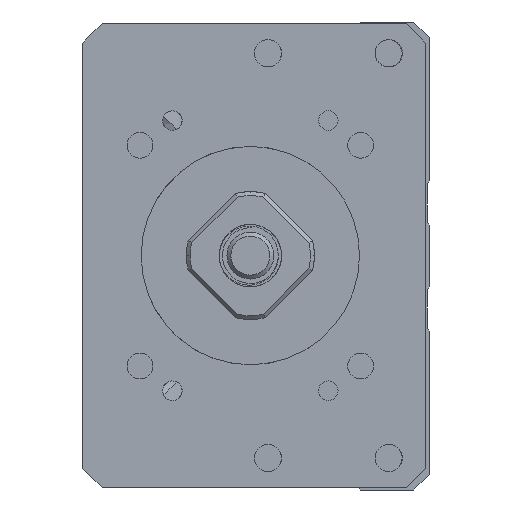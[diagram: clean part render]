
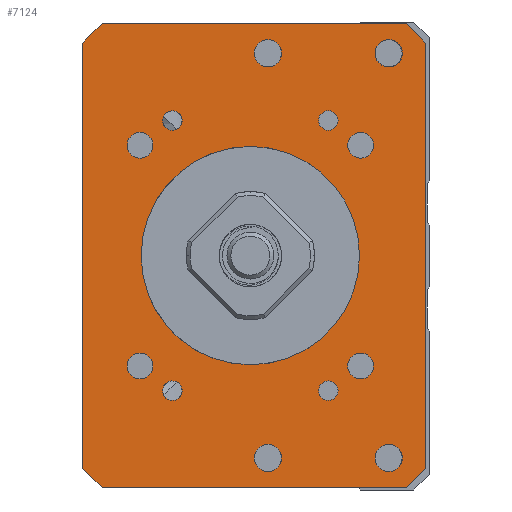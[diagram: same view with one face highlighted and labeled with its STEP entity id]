
A CAD part, left-side view. The second image highlights one B-rep face of the part: STEP entity #7124.
In plain terms, the highlighted planar face has unit normal (-1, 0, 0).
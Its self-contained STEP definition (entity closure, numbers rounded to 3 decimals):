
#4270=CIRCLE('',#14048,14.);
#4279=CIRCLE('',#14059,1.65);
#4280=CIRCLE('',#14060,1.65);
#4281=CIRCLE('',#14061,1.65);
#4282=CIRCLE('',#14062,1.65);
#4283=CIRCLE('',#14063,1.25);
#4284=CIRCLE('',#14064,1.75);
#4285=CIRCLE('',#14065,1.25);
#4286=CIRCLE('',#14066,1.75);
#4287=CIRCLE('',#14067,1.25);
#4288=CIRCLE('',#14068,1.75);
#4289=CIRCLE('',#14069,1.75);
#4290=CIRCLE('',#14070,1.25);
#4686=PLANE('',#14071);
#5545=LINE('',#18334,#6352);
#5547=LINE('',#18358,#6354);
#5548=LINE('',#18360,#6355);
#5549=LINE('',#18362,#6356);
#5550=LINE('',#18364,#6357);
#5551=LINE('',#18366,#6358);
#5552=LINE('',#18368,#6359);
#5553=LINE('',#18370,#6360);
#6352=VECTOR('',#15415,1.);
#6354=VECTOR('',#15439,1.);
#6355=VECTOR('',#15440,1.);
#6356=VECTOR('',#15441,1.);
#6357=VECTOR('',#15442,1.);
#6358=VECTOR('',#15443,1.);
#6359=VECTOR('',#15444,1.);
#6360=VECTOR('',#15445,1.);
#7124=ADVANCED_FACE('',(#7836,#7837,#7838,#7839,#7840,#7841,#7842,#7843,
#7844,#7845,#7846,#7847,#7848,#7849),#4686,.F.);
#7836=FACE_BOUND('',#8298,.T.);
#7837=FACE_BOUND('',#8299,.T.);
#7838=FACE_BOUND('',#8300,.T.);
#7839=FACE_BOUND('',#8301,.T.);
#7840=FACE_BOUND('',#8302,.T.);
#7841=FACE_BOUND('',#8303,.T.);
#7842=FACE_BOUND('',#8304,.T.);
#7843=FACE_BOUND('',#8305,.T.);
#7844=FACE_BOUND('',#8306,.T.);
#7845=FACE_BOUND('',#8307,.T.);
#7846=FACE_BOUND('',#8308,.T.);
#7847=FACE_BOUND('',#8309,.T.);
#7848=FACE_BOUND('',#8310,.T.);
#7849=FACE_BOUND('',#8311,.T.);
#8298=EDGE_LOOP('',(#9518));
#8299=EDGE_LOOP('',(#9519));
#8300=EDGE_LOOP('',(#9520));
#8301=EDGE_LOOP('',(#9521));
#8302=EDGE_LOOP('',(#9522));
#8303=EDGE_LOOP('',(#9523));
#8304=EDGE_LOOP('',(#9524));
#8305=EDGE_LOOP('',(#9525));
#8306=EDGE_LOOP('',(#9526));
#8307=EDGE_LOOP('',(#9527,#9528,#9529,#9530,#9531,#9532,#9533,#9534));
#8308=EDGE_LOOP('',(#9535));
#8309=EDGE_LOOP('',(#9536));
#8310=EDGE_LOOP('',(#9537));
#8311=EDGE_LOOP('',(#9538));
#9518=ORIENTED_EDGE('',*,*,#12746,.F.);
#9519=ORIENTED_EDGE('',*,*,#12747,.F.);
#9520=ORIENTED_EDGE('',*,*,#12748,.F.);
#9521=ORIENTED_EDGE('',*,*,#12749,.F.);
#9522=ORIENTED_EDGE('',*,*,#12750,.F.);
#9523=ORIENTED_EDGE('',*,*,#12751,.T.);
#9524=ORIENTED_EDGE('',*,*,#12752,.F.);
#9525=ORIENTED_EDGE('',*,*,#12753,.F.);
#9526=ORIENTED_EDGE('',*,*,#12754,.F.);
#9527=ORIENTED_EDGE('',*,*,#12743,.T.);
#9528=ORIENTED_EDGE('',*,*,#12755,.T.);
#9529=ORIENTED_EDGE('',*,*,#12756,.F.);
#9530=ORIENTED_EDGE('',*,*,#12757,.T.);
#9531=ORIENTED_EDGE('',*,*,#12758,.F.);
#9532=ORIENTED_EDGE('',*,*,#12759,.T.);
#9533=ORIENTED_EDGE('',*,*,#12760,.T.);
#9534=ORIENTED_EDGE('',*,*,#12761,.T.);
#9535=ORIENTED_EDGE('',*,*,#12762,.F.);
#9536=ORIENTED_EDGE('',*,*,#12763,.F.);
#9537=ORIENTED_EDGE('',*,*,#12764,.F.);
#9538=ORIENTED_EDGE('',*,*,#12723,.F.);
#11723=VERTEX_POINT('',#18273);
#11743=VERTEX_POINT('',#18333);
#11744=VERTEX_POINT('',#18335);
#11746=VERTEX_POINT('',#18341);
#11747=VERTEX_POINT('',#18343);
#11748=VERTEX_POINT('',#18345);
#11749=VERTEX_POINT('',#18347);
#11750=VERTEX_POINT('',#18349);
#11751=VERTEX_POINT('',#18351);
#11752=VERTEX_POINT('',#18353);
#11753=VERTEX_POINT('',#18355);
#11754=VERTEX_POINT('',#18357);
#11755=VERTEX_POINT('',#18359);
#11756=VERTEX_POINT('',#18361);
#11757=VERTEX_POINT('',#18363);
#11758=VERTEX_POINT('',#18365);
#11759=VERTEX_POINT('',#18367);
#11760=VERTEX_POINT('',#18369);
#11761=VERTEX_POINT('',#18372);
#11762=VERTEX_POINT('',#18374);
#11763=VERTEX_POINT('',#18376);
#12723=EDGE_CURVE('',#11723,#11723,#4270,.T.);
#12743=EDGE_CURVE('',#11744,#11743,#5545,.T.);
#12746=EDGE_CURVE('',#11746,#11746,#4279,.T.);
#12747=EDGE_CURVE('',#11747,#11747,#4280,.T.);
#12748=EDGE_CURVE('',#11748,#11748,#4281,.T.);
#12749=EDGE_CURVE('',#11749,#11749,#4282,.T.);
#12750=EDGE_CURVE('',#11750,#11750,#4283,.T.);
#12751=EDGE_CURVE('',#11751,#11751,#4284,.T.);
#12752=EDGE_CURVE('',#11752,#11752,#4285,.T.);
#12753=EDGE_CURVE('',#11753,#11753,#4286,.T.);
#12754=EDGE_CURVE('',#11754,#11754,#4287,.T.);
#12755=EDGE_CURVE('',#11743,#11755,#5547,.T.);
#12756=EDGE_CURVE('',#11756,#11755,#5548,.T.);
#12757=EDGE_CURVE('',#11756,#11757,#5549,.T.);
#12758=EDGE_CURVE('',#11758,#11757,#5550,.T.);
#12759=EDGE_CURVE('',#11758,#11759,#5551,.T.);
#12760=EDGE_CURVE('',#11759,#11760,#5552,.T.);
#12761=EDGE_CURVE('',#11760,#11744,#5553,.T.);
#12762=EDGE_CURVE('',#11761,#11761,#4288,.T.);
#12763=EDGE_CURVE('',#11762,#11762,#4289,.T.);
#12764=EDGE_CURVE('',#11763,#11763,#4290,.T.);
#14048=AXIS2_PLACEMENT_3D('',#18272,#15389,#15390);
#14059=AXIS2_PLACEMENT_3D('',#18340,#15421,#15422);
#14060=AXIS2_PLACEMENT_3D('',#18342,#15423,#15424);
#14061=AXIS2_PLACEMENT_3D('',#18344,#15425,#15426);
#14062=AXIS2_PLACEMENT_3D('',#18346,#15427,#15428);
#14063=AXIS2_PLACEMENT_3D('',#18348,#15429,#15430);
#14064=AXIS2_PLACEMENT_3D('',#18350,#15431,#15432);
#14065=AXIS2_PLACEMENT_3D('',#18352,#15433,#15434);
#14066=AXIS2_PLACEMENT_3D('',#18354,#15435,#15436);
#14067=AXIS2_PLACEMENT_3D('',#18356,#15437,#15438);
#14068=AXIS2_PLACEMENT_3D('',#18371,#15446,#15447);
#14069=AXIS2_PLACEMENT_3D('',#18373,#15448,#15449);
#14070=AXIS2_PLACEMENT_3D('',#18375,#15450,#15451);
#14071=AXIS2_PLACEMENT_3D('',#18377,#15452,#15453);
#15389=DIRECTION('',(-1.,0.,0.));
#15390=DIRECTION('',(0.,1.,0.));
#15415=DIRECTION('',(0.,0.,-1.));
#15421=DIRECTION('',(-1.,0.,0.));
#15422=DIRECTION('',(0.,0.,1.));
#15423=DIRECTION('',(-1.,0.,0.));
#15424=DIRECTION('',(0.,0.,1.));
#15425=DIRECTION('',(-1.,0.,0.));
#15426=DIRECTION('',(0.,0.,1.));
#15427=DIRECTION('',(-1.,0.,0.));
#15428=DIRECTION('',(0.,0.,1.));
#15429=DIRECTION('',(-1.,0.,0.));
#15430=DIRECTION('',(0.,1.,0.));
#15431=DIRECTION('',(1.,0.,0.));
#15432=DIRECTION('',(0.,0.,1.));
#15433=DIRECTION('',(-1.,0.,0.));
#15434=DIRECTION('',(0.,1.,0.));
#15435=DIRECTION('',(-1.,0.,0.));
#15436=DIRECTION('',(0.,0.,1.));
#15437=DIRECTION('',(-1.,0.,0.));
#15438=DIRECTION('',(0.,1.,0.));
#15439=DIRECTION('',(0.,-0.707,-0.707));
#15440=DIRECTION('',(0.,1.,0.));
#15441=DIRECTION('',(0.,-0.707,0.707));
#15442=DIRECTION('',(0.,0.,-1.));
#15443=DIRECTION('',(0.,0.707,0.707));
#15444=DIRECTION('',(0.,1.,0.));
#15445=DIRECTION('',(0.,0.707,-0.707));
#15446=DIRECTION('',(-1.,0.,0.));
#15447=DIRECTION('',(0.,0.,1.));
#15448=DIRECTION('',(-1.,0.,0.));
#15449=DIRECTION('',(0.,0.,1.));
#15450=DIRECTION('',(-1.,0.,0.));
#15451=DIRECTION('',(0.,1.,0.));
#15452=DIRECTION('',(1.,0.,0.));
#15453=DIRECTION('',(0.,1.,0.));
#18272=CARTESIAN_POINT('',(-211.,0.,-500.));
#18273=CARTESIAN_POINT('',(-211.,14.,-500.));
#18333=CARTESIAN_POINT('',(-211.,21.499,-527.25));
#18334=CARTESIAN_POINT('',(-211.,21.499,-470.25));
#18335=CARTESIAN_POINT('',(-211.,21.499,-472.75));
#18340=CARTESIAN_POINT('',(-211.,14.142,-485.858));
#18341=CARTESIAN_POINT('',(-211.,14.142,-484.208));
#18342=CARTESIAN_POINT('',(-211.,-14.142,-485.858));
#18343=CARTESIAN_POINT('',(-211.,-14.142,-484.208));
#18344=CARTESIAN_POINT('',(-211.,14.142,-514.142));
#18345=CARTESIAN_POINT('',(-211.,14.142,-512.492));
#18346=CARTESIAN_POINT('',(-211.,-14.142,-514.142));
#18347=CARTESIAN_POINT('',(-211.,-14.142,-512.492));
#18348=CARTESIAN_POINT('',(-211.,-10.,-517.321));
#18349=CARTESIAN_POINT('',(-211.,-8.75,-517.321));
#18350=CARTESIAN_POINT('',(-211.,-2.25,-525.936));
#18351=CARTESIAN_POINT('',(-211.,-2.25,-524.186));
#18352=CARTESIAN_POINT('',(-211.,10.,-482.679));
#18353=CARTESIAN_POINT('',(-211.,11.25,-482.679));
#18354=CARTESIAN_POINT('',(-211.,-2.25,-474.064));
#18355=CARTESIAN_POINT('',(-211.,-2.25,-472.314));
#18356=CARTESIAN_POINT('',(-211.,10.,-517.321));
#18357=CARTESIAN_POINT('',(-211.,11.25,-517.321));
#18358=CARTESIAN_POINT('',(-211.,18.999,-529.75));
#18359=CARTESIAN_POINT('',(-211.,18.999,-529.75));
#18360=CARTESIAN_POINT('',(-211.,-22.501,-529.75));
#18361=CARTESIAN_POINT('',(-211.,-20.001,-529.75));
#18362=CARTESIAN_POINT('',(-211.,-22.501,-527.25));
#18363=CARTESIAN_POINT('',(-211.,-22.501,-527.25));
#18364=CARTESIAN_POINT('',(-211.,-22.501,-470.25));
#18365=CARTESIAN_POINT('',(-211.,-22.501,-472.75));
#18366=CARTESIAN_POINT('',(-211.,-22.501,-472.75));
#18367=CARTESIAN_POINT('',(-211.,-20.001,-470.25));
#18368=CARTESIAN_POINT('',(-211.,-22.501,-470.25));
#18369=CARTESIAN_POINT('',(-211.,18.999,-470.25));
#18370=CARTESIAN_POINT('',(-211.,18.999,-470.25));
#18371=CARTESIAN_POINT('',(-211.,-17.75,-474.064));
#18372=CARTESIAN_POINT('',(-211.,-17.75,-472.314));
#18373=CARTESIAN_POINT('',(-211.,-17.75,-525.936));
#18374=CARTESIAN_POINT('',(-211.,-17.75,-524.186));
#18375=CARTESIAN_POINT('',(-211.,-10.,-482.679));
#18376=CARTESIAN_POINT('',(-211.,-8.75,-482.679));
#18377=CARTESIAN_POINT('',(-211.,-22.501,-470.25));
